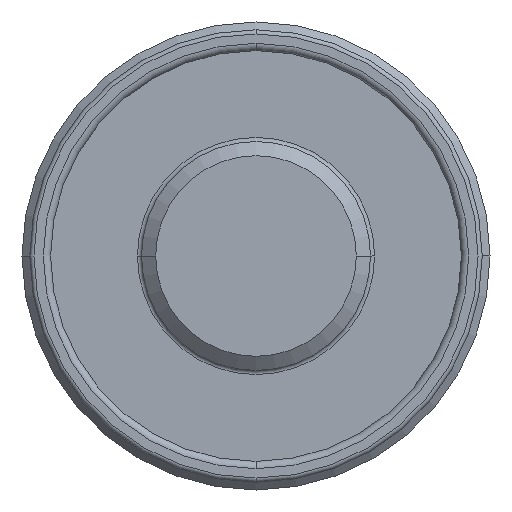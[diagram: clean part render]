
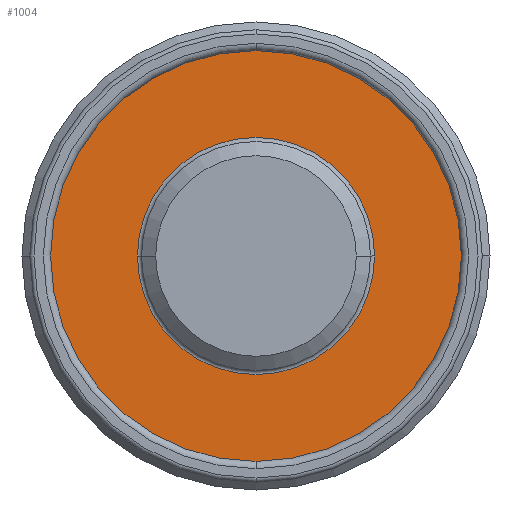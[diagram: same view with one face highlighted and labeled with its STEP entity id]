
A CAD part, front view. The second image highlights one B-rep face of the part: STEP entity #1004.
In plain terms, the highlighted planar face has unit normal (0, -1, 0).
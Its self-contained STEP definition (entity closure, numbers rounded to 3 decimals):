
#792=FACE_BOUND('',#1306,.T.);
#793=FACE_BOUND('',#1307,.T.);
#821=PLANE('',#3064);
#1004=ADVANCED_FACE('',(#792,#793),#821,.F.);
#1306=EDGE_LOOP('',(#1742,#1743));
#1307=EDGE_LOOP('',(#1744,#1745));
#1742=ORIENTED_EDGE('',*,*,#2563,.T.);
#1743=ORIENTED_EDGE('',*,*,#2475,.T.);
#1744=ORIENTED_EDGE('',*,*,#2564,.T.);
#1745=ORIENTED_EDGE('',*,*,#2476,.T.);
#2277=VERTEX_POINT('',#4142);
#2279=VERTEX_POINT('',#4146);
#2280=VERTEX_POINT('',#4150);
#2281=VERTEX_POINT('',#4151);
#2475=EDGE_CURVE('',#2277,#2279,#2797,.T.);
#2476=EDGE_CURVE('',#2280,#2281,#2798,.T.);
#2563=EDGE_CURVE('',#2279,#2277,#2839,.T.);
#2564=EDGE_CURVE('',#2281,#2280,#2840,.T.);
#2797=CIRCLE('',#2996,11.4);
#2798=CIRCLE('',#2998,21.4);
#2839=CIRCLE('',#3062,11.4);
#2840=CIRCLE('',#3063,21.4);
#2996=AXIS2_PLACEMENT_3D('',#4147,#3359,#3360);
#2998=AXIS2_PLACEMENT_3D('',#4149,#3363,#3364);
#3062=AXIS2_PLACEMENT_3D('',#4506,#3521,#3522);
#3063=AXIS2_PLACEMENT_3D('',#4507,#3523,#3524);
#3064=AXIS2_PLACEMENT_3D('',#4508,#3525,#3526);
#3359=DIRECTION('',(0.,1.,0.));
#3360=DIRECTION('',(-1.,0.,0.));
#3363=DIRECTION('',(0.,-1.,0.));
#3364=DIRECTION('',(-1.,0.,0.));
#3521=DIRECTION('',(0.,1.,0.));
#3522=DIRECTION('',(-1.,0.,0.));
#3523=DIRECTION('',(0.,-1.,0.));
#3524=DIRECTION('',(-1.,0.,0.));
#3525=DIRECTION('',(0.,1.,0.));
#3526=DIRECTION('',(1.,0.,0.));
#4142=CARTESIAN_POINT('',(11.4,21.6,0.));
#4146=CARTESIAN_POINT('',(-11.4,21.6,0.));
#4147=CARTESIAN_POINT('',(0.,21.6,0.));
#4149=CARTESIAN_POINT('',(0.,21.6,0.));
#4150=CARTESIAN_POINT('',(21.4,21.6,0.));
#4151=CARTESIAN_POINT('',(-21.4,21.6,0.));
#4506=CARTESIAN_POINT('',(0.,21.6,0.));
#4507=CARTESIAN_POINT('',(0.,21.6,0.));
#4508=CARTESIAN_POINT('',(21.6,21.6,0.));
